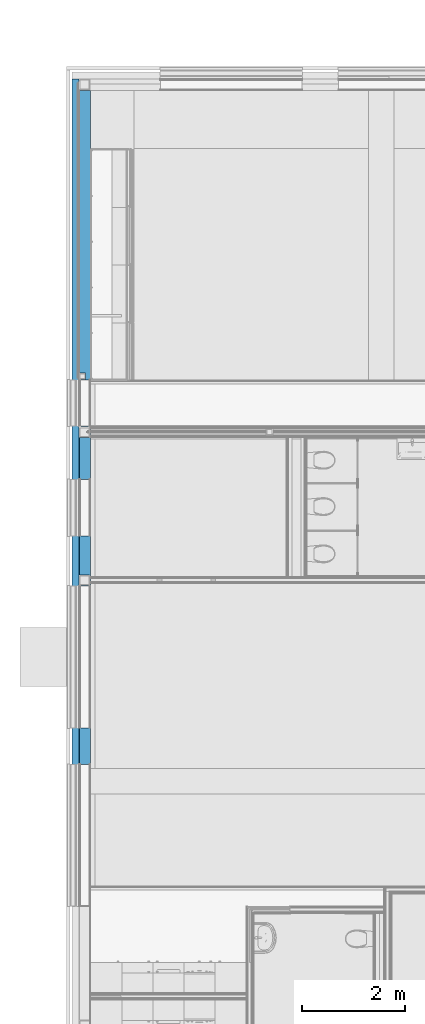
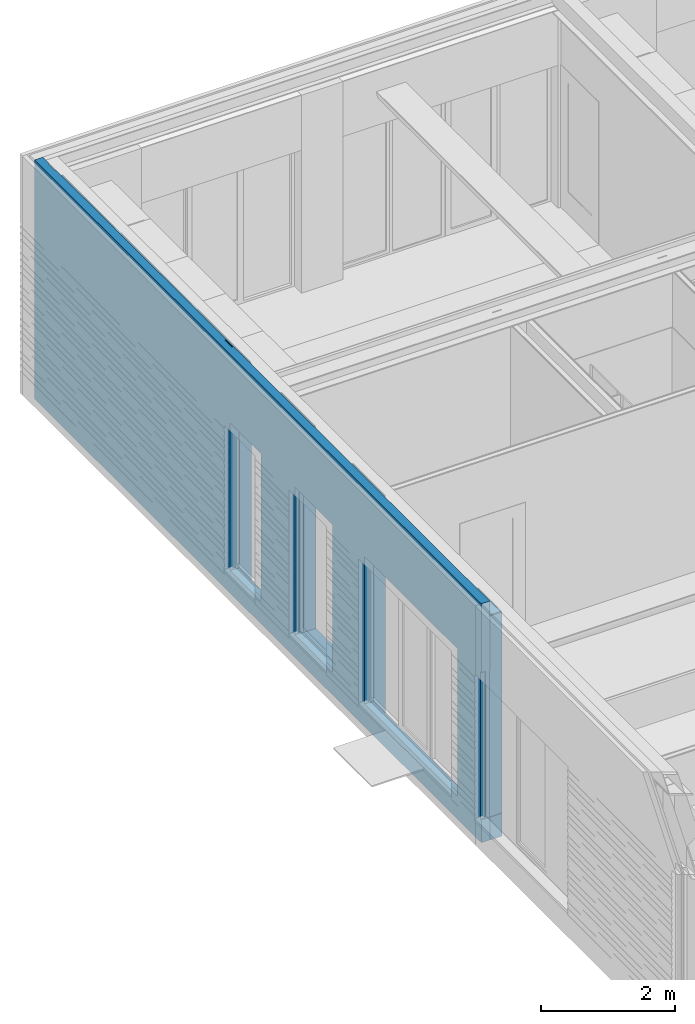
# One storey, part 77 of 165: 2 building element parts, 4 openings, 1 element without a shape of its own.
"""IFC2X3 building model written with IfcOpenShell, lengths in millimetres."""

from ifc_helpers import new_model, entity, si_unit, converted_unit, derived_unit, money_unit, direction, frame, origin_with_axes, place, context, subcontext, project, spatial, faceted_brep, material, type_object, element, aggregate, save


model = new_model("IFC2X3")

# Units and contexts
model_context = context("Model", 3, precision=0.01, world=origin_with_axes(), true_north=direction((0.0, 1.0)))
body_context = subcontext(model_context, "Body", "Model", "MODEL_VIEW")
ifc_project = project(units=[si_unit("LENGTHUNIT", "METRE", prefix="MILLI"), si_unit("AREAUNIT", "SQUARE_METRE"), si_unit("VOLUMEUNIT", "CUBIC_METRE"), converted_unit("PLANEANGLEUNIT", "DEGREE", entity("IfcPlaneAngleMeasure", 0.0174532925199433), si_unit("PLANEANGLEUNIT", "RADIAN"), dimensions=[0, 0, 0, 0, 0, 0, 0]), money_unit("EUR"), converted_unit("TIMEUNIT", "Year", entity("IfcTimeMeasure", 31556926.0), si_unit("TIMEUNIT", "SECOND"), dimensions=[0, 0, 1, 0, 0, 0, 0]), si_unit("MASSUNIT", "GRAM", prefix="KILO"), si_unit("THERMODYNAMICTEMPERATUREUNIT", "DEGREE_CELSIUS"), si_unit("LUMINOUSINTENSITYUNIT", "LUMEN"), si_unit("ENERGYUNIT", "JOULE", prefix="MEGA"), derived_unit("THERMALCONDUCTANCEUNIT", [(si_unit("POWERUNIT", "WATT"), 1), (si_unit("LENGTHUNIT", "METRE"), -1), (si_unit("THERMODYNAMICTEMPERATUREUNIT", "KELVIN"), -1)]), derived_unit("SPECIFICHEATCAPACITYUNIT", [(si_unit("ENERGYUNIT", "JOULE"), 1), (si_unit("MASSUNIT", "GRAM", prefix="KILO"), -1), (si_unit("THERMODYNAMICTEMPERATUREUNIT", "KELVIN"), -1)]), derived_unit("MASSDENSITYUNIT", [(si_unit("MASSUNIT", "GRAM", prefix="KILO"), 1), (si_unit("VOLUMEUNIT", "CUBIC_METRE"), -1)])], contexts=[model_context])

# Site, building, storey
site_placement = place(None, origin_with_axes())
site = spatial("IfcSite", under=ifc_project, at=site_placement, Name="Site", CompositionType="ELEMENT")
building_placement = place(site_placement, origin_with_axes())
building = spatial("IfcBuilding", under=site, at=building_placement, Name="Naam gebouw", CompositionType="ELEMENT")
storey_placement = place(building_placement, origin_with_axes())
storey = spatial("IfcBuildingStorey", under=building, at=storey_placement, Name="Begane grond", CompositionType="ELEMENT", Elevation=0.0)

# Wall, openings, building element parts
wall_type = type_object("IfcWallType", Name="21 Buitenwand spouwmuur 464", PredefinedType="NOTDEFINED")
wall_placement = place(storey_placement, frame((0.0, 15864.9998112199, -485.0), z_axis=(0.0, 0.0, 1.0), x_axis=(0.0, 1.0, 0.0)))
wall = element("IfcWall", 1, at=wall_placement, inside=storey, type_object=wall_type, Name="21_Wand-x")
opening_1_placement = place(wall_placement, frame((7025.000035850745, 0.0, 475.0), z_axis=(0.0, 0.0, 1.0), x_axis=(1.0, 0.0, 0.0)))
element("IfcOpeningElement", 2, at=opening_1_placement, cuts=wall, Name="_Merk AH", context=body_context, shape_type="Brep", body=[
    faceted_brep([(449.9999999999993, 0.0, -60.00000000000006), (449.9999999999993, 0.0, 2620.0), (449.9999999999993, 0.0, 3620.0), (449.9999999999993, -215.0000000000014, 3620.0), (449.9999999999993, -215.0000000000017, -1060.0), (449.9999999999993, 0.0, -1060.0), (449.9999999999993, 71.99999999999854, -60.00000000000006), (449.9999999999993, 71.9999999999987, 2620.0), (-449.9999999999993, 0.0, 2620.0), (-449.9999999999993, 0.0, 3620.0), (-449.9999999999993, -215.0000000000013, 3620.0), (-449.9999999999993, -215.0000000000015, -1060.0), (-449.9999999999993, 0.0, -1060.0), (-449.9999999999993, 0.0, -60.00000000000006), (-449.9999999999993, 71.99999999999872, -60.00000000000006), (460.0000000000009, 71.99999999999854, -60.00000000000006), (460.0000000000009, 71.9999999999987, 2620.0), (-449.9999999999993, 71.99999999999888, 2620.0), (-460.0000000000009, 71.99999999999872, -60.00000000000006), (-460.0000000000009, 251.0000000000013, -60.00000000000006), (460.0000000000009, 251.0000000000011, -60.00000000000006), (460.0000000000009, 251.0000000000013, 2620.0), (-460.0000000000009, 251.0000000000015, 2620.0), (-460.0000000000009, 71.99999999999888, 2620.0)], [[[0, 1, 2, 3, 4, 5]], [[1, 0, 6, 7]], [[1, 8, 9, 2]], [[2, 9, 10, 3]], [[10, 11, 4, 3]], [[12, 5, 4, 11]], [[13, 0, 5, 12]], [[0, 13, 14, 6]], [[7, 6, 15, 16]], [[8, 1, 7, 17]], [[8, 13, 12, 11, 10, 9]], [[13, 8, 17, 14]], [[6, 14, 18, 19, 20, 15]], [[16, 15, 20, 21]], [[17, 7, 16, 21, 22, 23]], [[14, 17, 23, 18]], [[18, 23, 22, 19]], [[21, 20, 19, 22]]]),
])
opening_2_placement = place(wall_placement, frame((2095.000000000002, 0.0, 475.0), z_axis=(0.0, 0.0, 1.0), x_axis=(1.0, 0.0, 0.0)))
element("IfcOpeningElement", 3, at=opening_2_placement, cuts=wall, Name="_Merk AC", context=body_context, shape_type="Brep", body=[
    faceted_brep([(1375.0, 0.0, -60.00000000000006), (1375.0, 0.0, 2620.0), (1375.0, 0.0, 3620.0), (1375.0, -215.0000000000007, 3620.0), (1375.0, -215.000000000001, -1060.0), (1375.0, 0.0, -1060.0), (1375.0, 71.99999999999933, -60.00000000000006), (1375.0, 71.99999999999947, 2620.0), (-1375.0, 0.0, 2620.0), (-1375.0, 0.0, 3620.0), (-1375.0, -215.0000000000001, 3620.0), (-1375.0, -215.0000000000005, -1060.0), (-1375.0, 0.0, -1060.0), (-1375.0, 0.0, -60.00000000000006), (-1375.0, 71.99999999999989, -60.00000000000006), (1385.000000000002, 71.99999999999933, -60.00000000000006), (1385.000000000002, 71.99999999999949, 2620.0), (-1375.0, 72.00000000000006, 2620.0), (-1385.000000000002, 71.99999999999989, -60.00000000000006), (-1385.000000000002, 251.0000000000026, -60.00000000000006), (1385.000000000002, 251.000000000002, -60.00000000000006), (1385.000000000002, 251.0000000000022, 2620.0), (-1385.000000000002, 251.0000000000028, 2620.0), (-1385.000000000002, 72.00000000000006, 2620.0)], [[[0, 1, 2, 3, 4, 5]], [[1, 0, 6, 7]], [[1, 8, 9, 2]], [[2, 9, 10, 3]], [[10, 11, 4, 3]], [[12, 5, 4, 11]], [[13, 0, 5, 12]], [[0, 13, 14, 6]], [[7, 6, 15, 16]], [[8, 1, 7, 17]], [[8, 13, 12, 11, 10, 9]], [[13, 8, 17, 14]], [[6, 14, 18, 19, 20, 15]], [[16, 15, 20, 21]], [[17, 7, 16, 21, 22, 23]], [[14, 17, 23, 18]], [[18, 23, 22, 19]], [[21, 20, 19, 22]]]),
])
opening_3_placement = place(wall_placement, frame((-39.99999999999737, 0.0, 414.9999999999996), z_axis=(0.0, 0.0, 1.0), x_axis=(1.0, 0.0, 0.0)))
element("IfcOpeningElement", 4, at=opening_3_placement, cuts=wall, Name="_-", context=body_context, shape_type="Brep", body=[
    faceted_brep([(50.00000000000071, 0.0, 0.0), (50.00000000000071, 0.0, 2680.0), (50.00000000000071, 0.0, 3680.0), (50.00000000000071, -214.9999999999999, 3680.0), (50.00000000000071, -215.0000000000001, 0.0), (50.00000000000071, 72.00000000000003, 0.0), (50.00000000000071, 72.00000000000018, 2680.0), (-300.0000000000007, 0.0, 2680.0), (-300.0000000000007, 0.0, 3680.0), (-300.0000000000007, -214.9999999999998, 3680.0), (-300.0000000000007, -215.0, 0.0), (-300.0000000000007, 0.0, 0.0), (-300.0000000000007, 72.00000000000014, 0.0), (60.0000000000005, 72.00000000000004, 0.0), (60.0000000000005, 72.0000000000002, 2680.0), (-300.0000000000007, 72.00000000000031, 2680.0), (-300.0000000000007, 251.0000000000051, 0.0), (60.0000000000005, 251.000000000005, 0.0), (60.0000000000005, 251.0000000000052, 2680.0), (-300.0000000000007, 251.0000000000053, 2680.0)], [[[0, 1, 2, 3, 4]], [[1, 0, 5, 6]], [[1, 7, 8, 2]], [[2, 8, 9, 3]], [[9, 10, 4, 3]], [[0, 4, 10, 11, 12, 5]], [[6, 5, 13, 14]], [[7, 1, 6, 15]], [[7, 11, 10, 9, 8]], [[11, 7, 15, 12]], [[5, 12, 16, 17, 13]], [[14, 13, 17, 18]], [[15, 6, 14, 18, 19]], [[12, 15, 19, 16]], [[18, 17, 16, 19]]]),
])
opening_4_placement = place(wall_placement, frame((4995.000000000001, 0.0, 475.0), z_axis=(0.0, 0.0, 1.0), x_axis=(1.0, 0.0, 0.0)))
element("IfcOpeningElement", 5, at=opening_4_placement, cuts=wall, Name="_Merk AD", context=body_context, shape_type="Brep", body=[
    faceted_brep([(550.0000000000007, 0.0, -60.00000000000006), (550.0000000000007, 0.0, 2620.000000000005), (550.0000000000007, 0.0, 3620.000000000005), (550.0000000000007, -215.0000000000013, 3620.000000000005), (550.0000000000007, -215.0000000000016, -60.00000000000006), (550.0000000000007, 71.9999999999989, -60.00000000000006), (550.0000000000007, 71.99999999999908, 2620.000000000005), (-550.0000000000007, 0.0, 2620.000000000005), (-550.0000000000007, 0.0, 3620.000000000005), (-550.0000000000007, -215.0000000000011, 3620.000000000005), (-550.0000000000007, -215.0000000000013, -60.00000000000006), (-550.0000000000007, 0.0, -60.00000000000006), (-550.0000000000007, 71.99999999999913, -60.00000000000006), (559.9999999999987, 71.99999999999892, -60.00000000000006), (559.9999999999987, 71.99999999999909, 2620.000000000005), (-550.0000000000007, 71.9999999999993, 2620.000000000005), (-559.9999999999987, 71.99999999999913, -60.00000000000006), (-559.9999999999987, 251.0000000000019, -60.00000000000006), (559.9999999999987, 251.0000000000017, -60.00000000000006), (559.9999999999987, 251.0000000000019, 2620.000000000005), (-559.9999999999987, 251.0000000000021, 2620.000000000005), (-559.9999999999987, 71.9999999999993, 2620.000000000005)], [[[0, 1, 2, 3, 4]], [[1, 0, 5, 6]], [[1, 7, 8, 2]], [[2, 8, 9, 3]], [[9, 10, 4, 3]], [[0, 4, 10, 11, 12, 5]], [[6, 5, 13, 14]], [[7, 1, 6, 15]], [[7, 11, 10, 9, 8]], [[11, 7, 15, 12]], [[5, 12, 16, 17, 18, 13]], [[14, 13, 18, 19]], [[15, 6, 14, 19, 20, 21]], [[12, 15, 21, 16]], [[16, 21, 20, 17]], [[19, 18, 17, 20]]]),
])
ifc_material_1 = material(Name="Isolatie - Steenwol zacht")
building_element_part_1_placement = place(wall_placement, origin_with_axes())
building_element_part_1 = element("IfcBuildingElementPart", 6, at=building_element_part_1_placement, material=ifc_material_1, Name="Isolatie - Steenwol zacht", context=body_context, shape_type="Brep", body=[
    faceted_brep([(5545.000000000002, 71.9999999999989, 414.9999999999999), (5545.000000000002, 71.99999999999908, 3095.000000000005), (5555.0, 71.99999999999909, 3095.000000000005), (5555.0, 71.99999999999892, 414.9999999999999), (5545.000000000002, 0.0, 414.9999999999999), (5545.000000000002, 0.0, 3095.000000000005), (4445.0, 71.9999999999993, 3095.000000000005), (4435.000000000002, 71.9999999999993, 3095.000000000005), (4435.000000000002, 144.9999999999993, 3095.000000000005), (5555.0, 144.9999999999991, 3095.000000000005), (5555.0, 144.9999999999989, 414.9999999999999), (4445.0, 71.99999999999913, 414.9999999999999), (4435.000000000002, 144.9999999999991, 414.9999999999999), (4435.000000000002, 71.99999999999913, 414.9999999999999), (13244.94097656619, 0.0, 304.1779519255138), (13176.19422262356, 0.0, 205.8220480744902), (7654.872650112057, 0.0, 4064.999999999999), (0.0, 0.0, 4064.999999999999), (0.0, 0.0, 3095.0), (10.00000000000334, 0.0, 3095.0), (10.00000000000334, 0.0, 414.9999999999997), (0.0, 0.0, 414.9999999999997), (0.0, 0.0, 0.0), (13310.0001887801, 0.0, 0.0), (13310.00018878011, 0.0, 4064.999999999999), (7864.337085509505, 0.0, 4064.999999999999), (7475.000035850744, 0.0, 3095.0), (7475.000035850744, 0.0, 414.9999999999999), (6575.000035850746, 0.0, 414.9999999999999), (6575.000035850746, 0.0, 3095.0), (720.0000000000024, 0.0, 414.9999999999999), (720.0000000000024, 0.0, 3095.0), (3470.000000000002, 0.0, 3095.0), (3470.000000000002, 0.0, 414.9999999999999), (4445.0, 0.0, 414.9999999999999), (4445.0, 0.0, 3095.000000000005), (20.00000000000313, 144.9999999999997, 414.9999999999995), (20.00000000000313, 144.9999999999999, 3095.0), (0.0, 144.9999999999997, 3095.0), (0.0, 144.9999999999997, 4345.0), (13310.0001887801, 144.9999999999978, 4345.0), (13310.0001887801, 144.9999999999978, 0.0), (0.0, 144.9999999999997, 0.0), (0.0, 144.9999999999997, 414.9999999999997), (6565.000035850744, 144.999999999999, 3095.0), (6565.000035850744, 144.9999999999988, 414.9999999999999), (7485.000035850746, 144.9999999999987, 414.9999999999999), (7485.000035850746, 144.9999999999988, 3095.0), (3480.000000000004, 144.999999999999, 414.9999999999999), (3480.000000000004, 144.9999999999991, 3095.0), (710.0000000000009, 144.9999999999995, 3095.0), (710.0000000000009, 144.9999999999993, 414.9999999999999), (13176.19422262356, 14.99999999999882, 205.8220480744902), (13244.94097656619, 14.99999999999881, 304.1779519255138), (10273.0516000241, 14.99999999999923, 2234.999999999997), (7654.872650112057, 14.99999999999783, 4064.999999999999), (10377.78381772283, 14.99999999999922, 2161.796463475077), (7864.337085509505, 14.9999999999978, 4064.999999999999), (13310.00018878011, 15.99999999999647, 4064.999999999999), (13100.6949853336, 15.9999999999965, 4064.999999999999), (13100.6949853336, 14.99999999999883, 4064.999999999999), (12891.23054993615, 14.99999999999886, 4064.999999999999), (12891.23054993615, 15.99999999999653, 4064.999999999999), (0.0, 15.99999999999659, 4064.999999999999), (0.0, 15.99999999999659, 4079.999999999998), (0.0, 0.9999999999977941, 4079.999999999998), (0.0, 0.9999999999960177, 4344.999999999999), (0.0, 72.0000000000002, 3095.0), (10.00000000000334, 72.00000000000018, 3095.0), (10.00000000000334, 72.00000000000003, 414.9999999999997), (0.0, 72.00000000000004, 414.9999999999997), (13310.00018878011, 0.9999999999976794, 4079.999999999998), (13310.00018878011, 15.99999999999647, 4079.999999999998), (13310.00018878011, 0.9999999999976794, 4344.999999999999), (10377.78381772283, 14.99999999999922, 2308.203536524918), (10482.51603542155, 14.9999999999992, 2234.999999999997), (7475.000035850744, 71.9999999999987, 3095.0), (7475.000035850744, 71.99999999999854, 414.9999999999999), (6575.000035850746, 71.99999999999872, 414.9999999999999), (6575.000035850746, 71.99999999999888, 3095.0), (720.0000000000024, 71.99999999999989, 414.9999999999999), (720.0000000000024, 72.00000000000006, 3095.0), (3470.000000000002, 71.99999999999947, 3095.0), (3470.000000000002, 71.99999999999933, 414.9999999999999), (20.00000000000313, 72.0000000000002, 3095.0), (20.00000000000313, 72.00000000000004, 414.9999999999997), (13129.30896292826, 14.99999999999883, 4345.0), (13129.30896292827, 0.9999999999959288, 4344.999999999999), (12919.84452753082, 0.9999999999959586, 4344.999999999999), (12919.84452753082, 14.99999999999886, 4345.0), (7626.258672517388, 14.99999999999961, 4345.0), (7626.258672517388, 29.9999999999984, 4345.0), (7835.723107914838, 29.99999999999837, 4345.0), (7835.723107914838, 14.99999999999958, 4345.0), (6565.000035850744, 71.99999999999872, 414.9999999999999), (6565.000035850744, 71.99999999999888, 3095.0), (7485.000035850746, 71.99999999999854, 414.9999999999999), (7485.000035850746, 71.9999999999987, 3095.0), (3480.000000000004, 71.99999999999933, 414.9999999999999), (3480.000000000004, 71.99999999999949, 3095.0), (710.0000000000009, 72.00000000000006, 3095.0), (710.0000000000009, 71.99999999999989, 414.9999999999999), (7510.626658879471, 14.99999999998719, 304.1779519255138), (7579.373412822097, 14.99999999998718, 205.8220480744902), (13122.1554685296, 15.9999999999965, 4079.999999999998), (7579.373412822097, 29.99999999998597, 205.8220480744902), (13122.1554685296, 14.99999999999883, 4079.999999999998), (13244.9409765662, 14.99999999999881, 4165.822048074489), (13244.9409765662, 29.99999999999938, 4165.822048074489), (13105.83538189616, 14.99999999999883, 4214.999999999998), (12912.69103313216, 14.99999999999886, 4079.999999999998), (12912.69103313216, 15.99999999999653, 4079.999999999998), (7510.626658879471, 29.99999999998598, 304.1779519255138), (13176.19422262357, 29.99999999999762, 4264.177951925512), (13176.19422262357, 14.99999999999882, 4264.177951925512), (7842.876602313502, 0.9999999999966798, 4079.999999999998), (7842.876602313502, 14.9999999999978, 4079.999999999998), (7633.412166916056, 14.99999999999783, 4079.999999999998), (7633.412166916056, 0.9999999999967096, 4079.999999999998), (13244.94097656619, 0.9999999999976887, 4264.177951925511), (13176.19422262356, 0.9999999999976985, 4165.822048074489), (7510.62665887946, 0.9999999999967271, 4165.822048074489), (7579.373412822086, 0.9999999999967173, 4264.177951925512), (13244.94097656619, 14.99999999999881, 4264.177951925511), (13176.19422262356, 14.99999999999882, 4165.822048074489), (13210.56759959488, 14.99999999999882, 4215.000000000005), (7510.626658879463, 29.99999999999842, 4264.177951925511), (7510.626658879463, 14.99999999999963, 4264.177951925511), (7579.373412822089, 29.99999999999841, 4165.822048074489), (7579.373412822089, 14.99999999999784, 4165.822048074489), (7649.732253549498, 14.99999999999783, 4215.0), (7579.373412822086, 14.99999999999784, 4264.177951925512), (7545.000035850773, 14.99999999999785, 4215.000000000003), (7510.62665887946, 14.99999999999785, 4165.822048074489)], [[[0, 1, 2, 3]], [[4, 5, 1, 0]], [[1, 6, 7, 8, 9, 2]], [[10, 3, 2, 9]], [[11, 0, 3, 10, 12, 13]], [[14, 15, 16, 17, 18, 19, 20, 21, 22, 23, 24, 25], [26, 27, 28, 29], [30, 31, 32, 33], [34, 35, 5, 4]], [[5, 35, 6, 1]], [[34, 4, 0, 11]], [[6, 11, 13, 7]], [[8, 7, 13, 12]], [[36, 37, 38, 39, 40, 41, 42, 43], [44, 45, 46, 47], [48, 49, 50, 51], [10, 9, 8, 12]], [[52, 15, 14, 53]], [[54, 55, 16, 15, 52, 56]], [[57, 25, 24, 58, 59, 60, 61, 62, 63, 17, 16, 55]], [[63, 64, 65, 66, 39, 38, 67, 18, 17]], [[67, 68, 19, 18]], [[68, 69, 20, 19]], [[69, 70, 21, 20]], [[22, 21, 70, 43, 42]], [[22, 42, 41, 23]], [[71, 72, 58, 24, 23, 41, 40, 73]], [[14, 25, 57, 74, 75, 53]], [[76, 77, 27, 26]], [[77, 78, 28, 27]], [[78, 79, 29, 28]], [[79, 76, 26, 29]], [[31, 30, 80, 81]], [[32, 31, 81, 82]], [[33, 32, 82, 83]], [[30, 33, 83, 80]], [[35, 34, 11, 6]], [[84, 37, 36, 85]], [[84, 68, 67, 38, 37]], [[86, 87, 73, 40, 39, 66, 88, 89], [90, 91, 92, 93]], [[43, 70, 69, 85, 36]], [[94, 45, 44, 95]], [[78, 77, 96, 46, 45, 94]], [[97, 47, 46, 96]], [[76, 79, 95, 44, 47, 97]], [[48, 98, 99, 49]], [[82, 81, 100, 50, 49, 99]], [[50, 100, 101, 51]], [[80, 83, 98, 48, 51, 101]], [[53, 75, 56, 52]], [[74, 57, 55, 54]], [[102, 54, 56, 103]], [[59, 58, 72, 104]], [[105, 103, 56, 75, 60, 59, 104, 106, 107, 108]], [[74, 61, 60, 75]], [[109, 110, 111, 62, 61, 74, 54, 102, 112, 113, 114]], [[63, 62, 111, 64]], [[104, 72, 71, 115, 116, 117, 118, 65, 64, 111, 110, 106]], [[115, 71, 73, 87, 119, 120, 88, 66, 65, 118, 121, 122]], [[84, 85, 69, 68]], [[97, 96, 77, 76]], [[94, 95, 79, 78]], [[81, 80, 101, 100]], [[83, 82, 99, 98]], [[123, 119, 87, 86]], [[88, 120, 124, 109, 89]], [[89, 109, 114, 125, 123, 86]], [[126, 91, 90, 127]], [[128, 92, 91, 126]], [[129, 130, 93, 92, 128]], [[130, 131, 132, 127, 90, 93]], [[103, 105, 112, 102]], [[107, 106, 110, 109, 124, 125]], [[125, 114, 113, 108, 107]], [[108, 113, 112, 105]], [[115, 122, 131, 130, 116]], [[133, 117, 116, 130, 129, 132]], [[121, 118, 117, 133]], [[120, 119, 123, 125, 124]], [[122, 121, 133, 132, 131]], [[132, 129, 128, 126, 127]]]),
])
ifc_material_2 = material(Name="Steen - Kalkzandsteen C")
building_element_part_2_placement = place(wall_placement, origin_with_axes())
building_element_part_2 = element("IfcBuildingElementPart", 7, at=building_element_part_2_placement, material=ifc_material_2, Name="Steen - Kalkzandsteen C", context=body_context, shape_type="Brep", body=[
    faceted_brep([(719.9999999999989, -214.0000000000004, 4064.999999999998), (720.0000000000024, 0.0, 4064.999999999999), (10.00000000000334, 0.0, 4064.999999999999), (10.00000000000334, -214.0000000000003, 4064.999999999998), (720.0000000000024, 0.0, 0.0), (720.0000000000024, -214.0000000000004, 0.0), (0.0, 0.0, 0.0), (0.0, 0.0, 414.9999999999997), (10.00000000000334, 0.0, 414.9999999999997), (10.00000000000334, -214.0000000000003, 414.9999999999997), (0.0, -214.0000000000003, 414.9999999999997), (0.0, -214.0000000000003, 0.0)], [[[0, 1, 2, 3]], [[4, 1, 0, 5]], [[6, 7, 8, 2, 1, 4]], [[2, 8, 9, 3]], [[0, 3, 9, 10, 11, 5]], [[6, 4, 5, 11]], [[6, 11, 10, 7]], [[8, 7, 10, 9]]]),
    faceted_brep([(5545.000000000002, 0.0, 4064.999999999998), (5545.000000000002, -214.0000000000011, 4064.999999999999), (6444.976402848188, -214.0000000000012, 4064.999999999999), (6444.976402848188, -199.9999999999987, 4064.999999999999), (6360.000035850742, -199.9999999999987, 4064.999999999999), (6360.000035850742, 0.0, 4064.999999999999), (5545.000000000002, -214.0000000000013, 414.9999999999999), (5545.000000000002, 0.0, 414.9999999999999), (4445.0, -214.0000000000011, 414.9999999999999), (4445.0, -214.0000000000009, 4064.999999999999), (3470.000000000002, -214.0000000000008, 4064.999999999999), (3470.000000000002, -214.0000000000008, 0.0), (6575.000035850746, -214.0000000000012, 0.0), (6575.000035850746, -214.0000000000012, 4064.999999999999), (6459.976402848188, -214.0000000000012, 4064.999999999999), (6459.976402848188, -214.0000000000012, 3959.848393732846), (6444.976402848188, -214.0000000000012, 3959.848393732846), (6459.976402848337, -214.0000000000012, 242.3816272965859), (6459.976402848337, -214.0000000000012, 360.1516062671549), (6474.976402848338, -214.0000000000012, 360.1516062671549), (6474.976402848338, -214.0000000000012, 242.3816272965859), (6444.976402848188, -199.9999999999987, 3975.381299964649), (6459.976402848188, -199.9999999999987, 3975.381299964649), (6459.976402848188, -199.9999999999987, 4064.999999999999), (6560.000035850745, -199.9999999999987, 4064.999999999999), (6560.000035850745, -199.9999999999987, 5.000000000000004), (6360.000035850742, -199.9999999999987, 5.000000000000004), (6474.976402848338, -199.9999999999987, 344.6187000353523), (6459.976402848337, -199.9999999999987, 344.6187000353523), (6459.976402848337, -199.9999999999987, 255.0000000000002), (6474.976402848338, -199.9999999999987, 255.0000000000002), (6360.000035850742, 0.0, 5.000000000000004), (6560.000035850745, 0.0, 5.000000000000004), (6560.000035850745, 0.0, 4064.999999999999), (6575.000035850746, 0.0, 4064.999999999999), (6575.000035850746, 0.0, 0.0), (3470.000000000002, 0.0, 0.0), (3470.000000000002, 0.0, 4064.999999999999), (3485.0, 0.0, 4064.999999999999), (3485.0, 0.0, 5.000000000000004), (3685.000000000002, 0.0, 5.000000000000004), (3685.000000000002, 0.0, 4064.999999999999), (4445.0, 0.0, 4064.999999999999), (4445.0, 0.0, 414.9999999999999), (3685.000000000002, -199.9999999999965, 4064.999999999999), (3485.0, -199.9999999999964, 4064.999999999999), (3485.0, -199.9999999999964, 5.000000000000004), (3685.000000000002, -199.9999999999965, 5.000000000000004)], [[[0, 1, 2, 3, 4, 5]], [[6, 1, 0, 7]], [[8, 9, 10, 11, 12, 13, 14, 15, 16, 2, 1, 6], [17, 18, 19, 20]], [[3, 2, 16, 21]], [[3, 21, 22, 23, 24, 25, 26, 4], [27, 28, 29, 30]], [[4, 26, 31, 5]], [[7, 0, 5, 31, 32, 33, 34, 35, 36, 37, 38, 39, 40, 41, 42, 43]], [[8, 6, 7, 43]], [[42, 9, 8, 43]], [[9, 42, 41, 44, 45, 38, 37, 10]], [[36, 11, 10, 37]], [[12, 11, 36, 35]], [[34, 13, 12, 35]], [[23, 14, 13, 34, 33, 24]], [[22, 15, 14, 23]], [[21, 16, 15, 22]], [[28, 18, 17, 29]], [[27, 19, 18, 28]], [[30, 20, 19, 27]], [[29, 17, 20, 30]], [[33, 32, 25, 24]], [[31, 26, 25, 32]], [[45, 46, 39, 38]], [[39, 46, 47, 40]], [[41, 40, 47, 44]], [[44, 47, 46, 45]]]),
    faceted_brep([(13096.00018878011, -214.0000000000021, 4064.999999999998), (13096.00018878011, 0.0, 4064.999999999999), (7605.000035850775, 0.0, 4064.999999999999), (7605.000035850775, -119.9999999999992, 4064.999999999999), (7485.000035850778, -119.9999999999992, 4064.999999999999), (7485.000035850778, 0.0, 4064.999999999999), (7475.000035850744, 0.0, 4064.999999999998), (7475.000035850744, -214.0000000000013, 4064.999999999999), (13096.00018878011, -214.0000000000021, 0.0), (13096.00018878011, 0.0, 0.0), (7485.000035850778, 0.0, 5.000000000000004), (7605.000035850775, 0.0, 5.000000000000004), (7475.000035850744, 0.0, 0.0), (7605.000035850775, -119.9999999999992, 5.000000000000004), (7485.000035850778, -119.9999999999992, 5.000000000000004), (7475.000035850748, -214.0000000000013, 0.0)], [[[0, 1, 2, 3, 4, 5, 6, 7]], [[8, 9, 1, 0]], [[5, 10, 11, 2, 1, 9, 12, 6]], [[13, 3, 2, 11]], [[14, 4, 3, 13]], [[10, 5, 4, 14]], [[6, 12, 15, 7]], [[8, 0, 7, 15]], [[9, 8, 15, 12]], [[13, 11, 10, 14]]]),
    faceted_brep([(3485.0, -195.000000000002, 4084.999999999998), (3485.0, -5.00000000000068, 4084.999999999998), (3470.000000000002, -5.000000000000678, 4084.999999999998), (3470.000000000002, -195.000000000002, 4084.999999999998), (3485.0, -5.000000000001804, 4079.999999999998), (3485.0, -195.000000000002, 4079.999999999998), (3470.000000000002, -5.000000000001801, 4079.999999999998), (3470.000000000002, -195.000000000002, 4079.999999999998)], [[[0, 1, 2, 3]], [[4, 1, 0, 5]], [[1, 4, 6, 2]], [[2, 6, 7, 3]], [[5, 0, 3, 7]], [[4, 5, 7, 6]]]),
    faceted_brep([(10.00000000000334, -5.000000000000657, 4085.0), (10.00000000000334, -195.0000000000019, 4085.0), (720.0000000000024, -195.0000000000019, 4085.0), (720.0000000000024, -5.000000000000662, 4084.999999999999), (10.00000000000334, -195.0000000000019, 4079.999999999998), (10.00000000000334, -5.000000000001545, 4079.999999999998), (720.0000000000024, -195.0000000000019, 4079.999999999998), (720.0000000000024, -5.000000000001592, 4079.999999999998)], [[[0, 1, 2, 3]], [[4, 1, 0, 5]], [[1, 4, 6, 2]], [[2, 6, 7, 3]], [[5, 0, 3, 7]], [[4, 5, 7, 6]]]),
    faceted_brep([(4445.0, -195.000000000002, 4079.999999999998), (4445.0, -195.000000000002, 4084.999999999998), (3685.000000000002, -195.000000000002, 4084.999999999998), (3685.000000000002, -195.000000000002, 4079.999999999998), (4445.0, -5.000000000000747, 4084.999999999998), (4445.0, -5.000000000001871, 4079.999999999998), (3685.000000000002, -5.000000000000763, 4084.999999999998), (3685.000000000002, -5.000000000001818, 4079.999999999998)], [[[0, 1, 2, 3]], [[4, 1, 0, 5]], [[1, 4, 6, 2]], [[2, 6, 7, 3]], [[5, 0, 3, 7]], [[4, 5, 7, 6]]]),
    faceted_brep([(5545.000000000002, -5.000000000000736, 4084.999999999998), (5545.000000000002, -195.000000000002, 4084.999999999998), (6360.000035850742, -195.000000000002, 4084.999999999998), (6360.000035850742, -5.000000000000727, 4084.999999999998), (5545.000000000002, -195.000000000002, 4079.999999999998), (5545.000000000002, -5.000000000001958, 4079.999999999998), (6360.000035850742, -195.000000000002, 4079.999999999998), (6360.000035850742, -5.000000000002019, 4079.999999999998)], [[[0, 1, 2, 3]], [[4, 1, 0, 5]], [[1, 4, 6, 2]], [[2, 6, 7, 3]], [[5, 0, 3, 7]], [[4, 5, 7, 6]]]),
    faceted_brep([(6575.000035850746, -195.000000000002, 4079.999999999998), (6575.000035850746, -195.000000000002, 4084.999999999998), (6560.000035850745, -195.000000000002, 4084.999999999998), (6560.000035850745, -195.000000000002, 4079.999999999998), (6575.000035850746, -5.000000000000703, 4084.999999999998), (6575.000035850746, -5.000000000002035, 4079.999999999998), (6560.000035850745, -5.0000000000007, 4084.999999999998), (6560.000035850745, -5.000000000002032, 4079.999999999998)], [[[0, 1, 2, 3]], [[4, 1, 0, 5]], [[1, 4, 6, 2]], [[2, 6, 7, 3]], [[5, 0, 3, 7]], [[4, 5, 7, 6]]]),
    faceted_brep([(7475.000035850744, -5.000000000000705, 4084.999999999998), (7475.000035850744, -195.000000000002, 4084.999999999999), (13096.00018878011, -195.000000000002, 4085.0), (13096.00018878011, -5.000000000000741, 4085.0), (7605.000035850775, -5.00000000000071, 4084.999999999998), (7605.000035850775, -119.9999999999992, 4084.999999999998), (7485.000035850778, -119.9999999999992, 4084.999999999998), (7485.000035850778, -5.000000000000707, 4084.999999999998), (7475.000035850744, -195.000000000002, 4079.999999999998), (7475.000035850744, -5.000000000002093, 4079.999999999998), (13096.00018878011, -195.000000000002, 4079.999999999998), (13096.00018878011, -5.000000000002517, 4079.999999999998), (7605.000035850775, -5.000000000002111, 4079.999999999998), (7605.000035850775, -119.9999999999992, 4079.999999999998), (7485.000035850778, -119.9999999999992, 4079.999999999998), (7485.000035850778, -5.000000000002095, 4079.999999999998)], [[[0, 1, 2, 3, 4, 5, 6, 7]], [[8, 1, 0, 9]], [[1, 8, 10, 2]], [[11, 3, 2, 10]], [[4, 3, 11, 12]], [[4, 12, 13, 5]], [[5, 13, 14, 6]], [[6, 14, 15, 7]], [[9, 0, 7, 15]], [[8, 9, 15, 14, 13, 12, 11, 10]]]),
    faceted_brep([(720.0000000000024, -214.0000000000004, 4085.0), (720.0000000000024, -201.0000000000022, 4085.0), (10.00000000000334, -201.0000000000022, 4085.0), (10.00000000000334, -214.0000000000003, 4085.0), (720.0000000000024, -201.0000000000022, 4079.999999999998), (720.0000000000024, -214.0000000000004, 4079.999999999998), (10.00000000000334, -201.0000000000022, 4079.999999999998), (10.00000000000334, -214.0000000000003, 4079.999999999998)], [[[0, 1, 2, 3]], [[4, 1, 0, 5]], [[1, 4, 6, 2]], [[2, 6, 7, 3]], [[5, 0, 3, 7]], [[4, 5, 7, 6]]]),
    faceted_brep([(4445.0, -214.0000000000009, 4079.999999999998), (4445.0, -214.0000000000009, 4085.0), (3470.000000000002, -214.0000000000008, 4085.0), (3470.000000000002, -214.0000000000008, 4079.999999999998), (4445.0, -201.0000000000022, 4085.0), (4445.0, -201.0000000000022, 4079.999999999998), (3470.000000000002, -201.0000000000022, 4085.0), (3470.000000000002, -201.0000000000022, 4079.999999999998)], [[[0, 1, 2, 3]], [[4, 1, 0, 5]], [[1, 4, 6, 2]], [[7, 3, 2, 6]], [[5, 0, 3, 7]], [[4, 5, 7, 6]]]),
    faceted_brep([(13096.00018878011, -214.0000000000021, 4085.0), (13096.00018878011, -201.0000000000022, 4085.0), (7475.000035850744, -201.0000000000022, 4085.0), (7475.000035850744, -214.0000000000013, 4085.0), (13096.00018878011, -214.0000000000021, 4079.999999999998), (13096.00018878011, -201.0000000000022, 4079.999999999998), (7475.000035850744, -201.0000000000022, 4079.999999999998), (7475.000035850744, -214.0000000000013, 4079.999999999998)], [[[0, 1, 2, 3]], [[4, 5, 1, 0]], [[1, 5, 6, 2]], [[2, 6, 7, 3]], [[4, 0, 3, 7]], [[5, 4, 7, 6]]]),
    faceted_brep([(5545.000000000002, -201.0000000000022, 4085.0), (5545.000000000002, -214.0000000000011, 4085.0), (6575.000035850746, -214.0000000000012, 4085.0), (6575.000035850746, -201.0000000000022, 4085.0), (5545.000000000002, -214.0000000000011, 4079.999999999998), (5545.000000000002, -201.0000000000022, 4079.999999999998), (6575.000035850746, -214.0000000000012, 4079.999999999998), (6575.000035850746, -201.0000000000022, 4079.999999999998)], [[[0, 1, 2, 3]], [[4, 1, 0, 5]], [[1, 4, 6, 2]], [[3, 2, 6, 7]], [[5, 0, 3, 7]], [[4, 5, 7, 6]]]),
])
aggregate(wall, [building_element_part_1, building_element_part_2])

save(model, "model.ifc")
